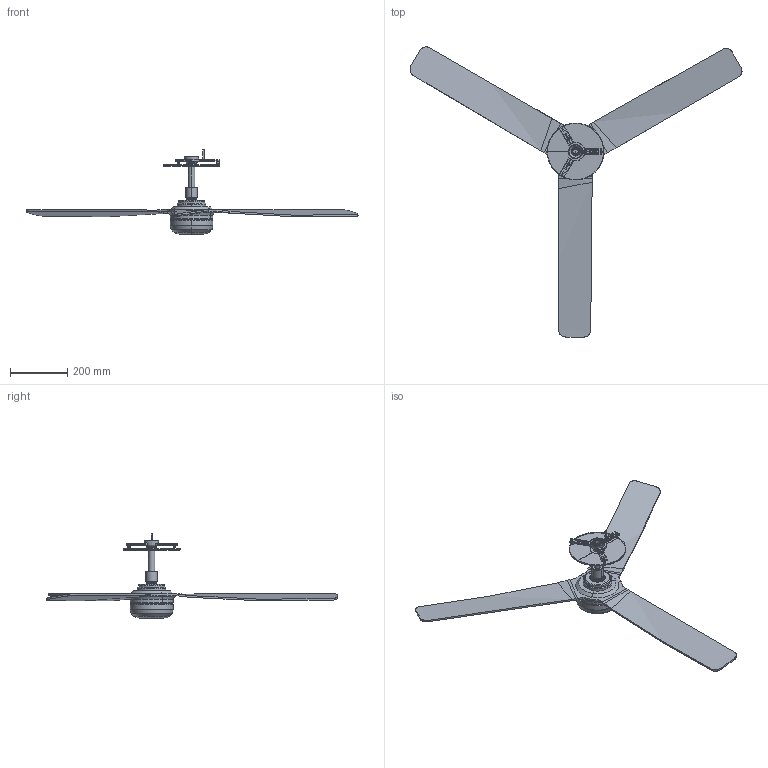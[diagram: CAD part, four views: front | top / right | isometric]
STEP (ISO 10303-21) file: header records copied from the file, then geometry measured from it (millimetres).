
FILE_DESCRIPTION(/* description */ (''),/* implementation_level */ '2;1');
FILE_NAME(/* name */ 'punt_recessed_m_3d',/* time_stamp */ '2026-06-25T12:13:08+02:00',/* author */ (''),/* organization */ (''),/* preprocessor_version */ 'ST-DEVELOPER v19.2',/* originating_system */ 'Rhino 8.30',/* authorisation */ '');
FILE_SCHEMA (('CONFIG_CONTROL_DESIGN'));
Length unit declared in the file: millimetre
Products named in the file (1): Document
Bounding box: 1164.32 x 1017.63 x 296.51 mm (x, y, z)
Volume: 45188.8 mm3; surface area: 741387.4 mm2
Topology: 2 solids, 226 shells, 549 faces, 2029 edges, 1697 vertices
Faces by surface type: plane 246, cylinder 163, bspline 140
Entity records: 33427 total; most frequent: CARTESIAN_POINT 18151, ORIENTED_EDGE 2836, EDGE_CURVE 2028, VERTEX_POINT 1695, B_SPLINE_CURVE_WITH_KNOTS 1301, DIRECTION 1281, AXIS2_PLACEMENT_3D 845, EDGE_LOOP 564
